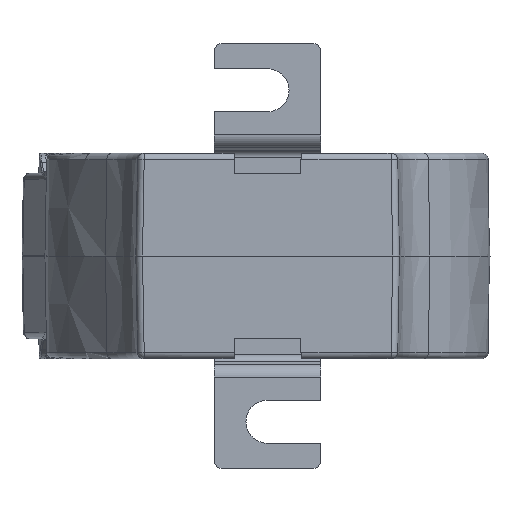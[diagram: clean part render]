
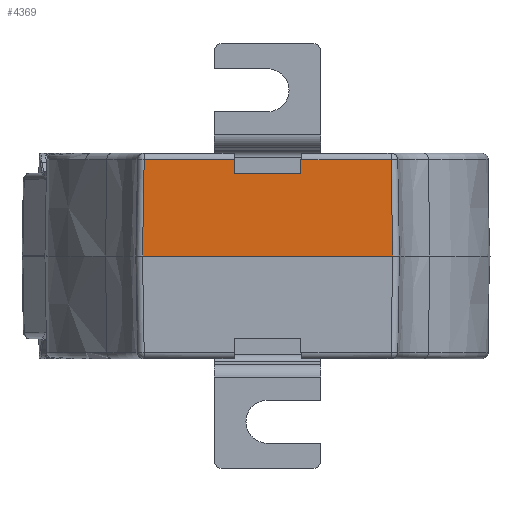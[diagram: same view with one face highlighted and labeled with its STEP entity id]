
A CAD part, front view. The second image highlights one B-rep face of the part: STEP entity #4369.
In plain terms, the highlighted planar face has unit normal (0, -1, 0).
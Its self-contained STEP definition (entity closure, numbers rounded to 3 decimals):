
#1851=DIRECTION('',(-1.,0.,0.));
#1852=VECTOR('',#1851,10.);
#1853=CARTESIAN_POINT('',(2.026,-36.62,87.229));
#1854=LINE('',#1853,#1852);
#1855=DIRECTION('',(-0.017,0.,-1.));
#1856=VECTOR('',#1855,2.);
#1857=CARTESIAN_POINT('',(2.061,-36.62,89.229));
#1858=LINE('',#1857,#1856);
#1859=DIRECTION('',(-0.017,0.,1.));
#1860=VECTOR('',#1859,14.502);
#1861=CARTESIAN_POINT('',(15.897,-36.62,74.729));
#1862=LINE('',#1861,#1860);
#1863=DIRECTION('',(-1.,0.,0.));
#1864=VECTOR('',#1863,37.742);
#1865=CARTESIAN_POINT('',(15.897,-36.62,74.729));
#1866=LINE('',#1865,#1864);
#1867=DIRECTION('',(-0.017,0.,-1.));
#1868=VECTOR('',#1867,14.502);
#1869=CARTESIAN_POINT('',(-21.592,-36.62,
89.229));
#1870=LINE('',#1869,#1868);
#1871=DIRECTION('',(-0.017,0.,1.));
#1872=VECTOR('',#1871,2.);
#1873=CARTESIAN_POINT('',(-7.974,-36.62,
87.229));
#1874=LINE('',#1873,#1872);
#2325=DIRECTION('',(1.,0.,0.));
#2326=VECTOR('',#2325,13.583);
#2327=CARTESIAN_POINT('',(2.061,-36.62,89.229));
#2328=LINE('',#2327,#2326);
#3412=CARTESIAN_POINT('',(-8.009,-36.62,
89.229));
#3420=DIRECTION('',(1.,0.,0.));
#3421=VECTOR('',#3420,13.583);
#3422=CARTESIAN_POINT('',(-21.592,-36.62,
89.229));
#3423=LINE('',#3422,#3421);
#3537=CARTESIAN_POINT('',(-21.592,-36.62,
89.229));
#3538=CARTESIAN_POINT('',(-21.845,-36.62,
74.729));
#3539=VERTEX_POINT('',#3537);
#3540=VERTEX_POINT('',#3538);
#3541=VERTEX_POINT('',#3412);
#3592=CARTESIAN_POINT('',(15.897,-36.62,74.729));
#3593=VERTEX_POINT('',#3592);
#3642=CARTESIAN_POINT('',(2.061,-36.62,89.229));
#3643=CARTESIAN_POINT('',(15.644,-36.62,89.229));
#3644=VERTEX_POINT('',#3642);
#3645=VERTEX_POINT('',#3643);
#3666=CARTESIAN_POINT('',(-7.974,-36.62,
87.229));
#3668=VERTEX_POINT('',#3666);
#3711=CARTESIAN_POINT('',(2.026,-36.62,87.229));
#3713=VERTEX_POINT('',#3711);
#4346=CARTESIAN_POINT('',(16.897,-36.62,90.229));
#4347=DIRECTION('',(0.,1.,0.));
#4348=DIRECTION('',(-1.,0.,0.));
#4349=AXIS2_PLACEMENT_3D('',#4346,#4347,#4348);
#4350=PLANE('',#4349);
#4352=ORIENTED_EDGE('',*,*,#4351,.F.);
#4354=ORIENTED_EDGE('',*,*,#4353,.F.);
#4356=ORIENTED_EDGE('',*,*,#4355,.T.);
#4358=ORIENTED_EDGE('',*,*,#4357,.F.);
#4360=ORIENTED_EDGE('',*,*,#4359,.T.);
#4362=ORIENTED_EDGE('',*,*,#4361,.F.);
#4364=ORIENTED_EDGE('',*,*,#4363,.T.);
#4366=ORIENTED_EDGE('',*,*,#4365,.F.);
#4367=EDGE_LOOP('',(#4352,#4354,#4356,#4358,#4360,#4362,#4364,#4366));
#4368=FACE_OUTER_BOUND('',#4367,.F.);
#4351=EDGE_CURVE('',#3713,#3668,#1854,.T.);
#4353=EDGE_CURVE('',#3644,#3713,#1858,.T.);
#4355=EDGE_CURVE('',#3644,#3645,#2328,.T.);
#4357=EDGE_CURVE('',#3593,#3645,#1862,.T.);
#4359=EDGE_CURVE('',#3593,#3540,#1866,.T.);
#4361=EDGE_CURVE('',#3539,#3540,#1870,.T.);
#4363=EDGE_CURVE('',#3539,#3541,#3423,.T.);
#4365=EDGE_CURVE('',#3668,#3541,#1874,.T.);
#4369=ADVANCED_FACE('',(#4368),#4350,.F.);
